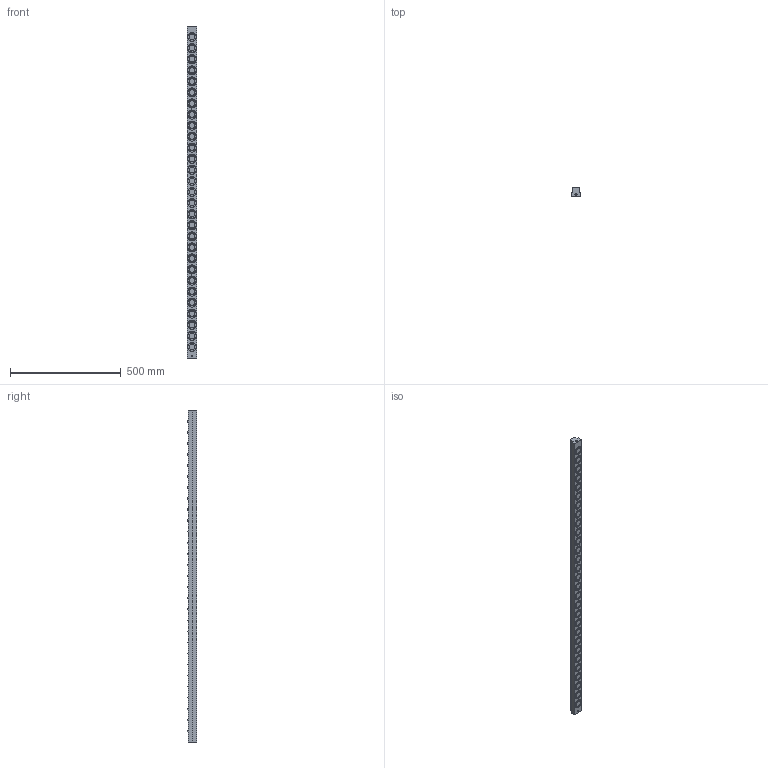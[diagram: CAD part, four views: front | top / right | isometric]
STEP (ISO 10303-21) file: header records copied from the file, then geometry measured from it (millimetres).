
FILE_DESCRIPTION (( 'STEP AP203' ), '1' );
FILE_NAME ('PVL50T-29.STEP', '2016-02-18T05:12:21', ( '' ), ( '' ), 'SwSTEP 2.0', 'SolidWorks 2013', '' );
FILE_SCHEMA (( 'CONFIG_CONTROL_DESIGN' ));
Length unit declared in the file: millimetre
Products named in the file (1): PVL50T-29
Bounding box: 45 x 42 x 1500 mm (x, y, z)
Volume: 2026252.4 mm3; surface area: 297617.3 mm2
Topology: 1 solids, 1 shells, 921 faces, 2169 edges, 1454 vertices
Faces by surface type: cylinder 586, plane 273, sphere 58, cone 4
Entity records: 27296 total; most frequent: DIRECTION 5361, CARTESIAN_POINT 4543, ORIENTED_EDGE 4334, AXIS2_PLACEMENT_3D 2272, EDGE_CURVE 2167, VERTEX_POINT 1454, CIRCLE 1350, EDGE_LOOP 1129
